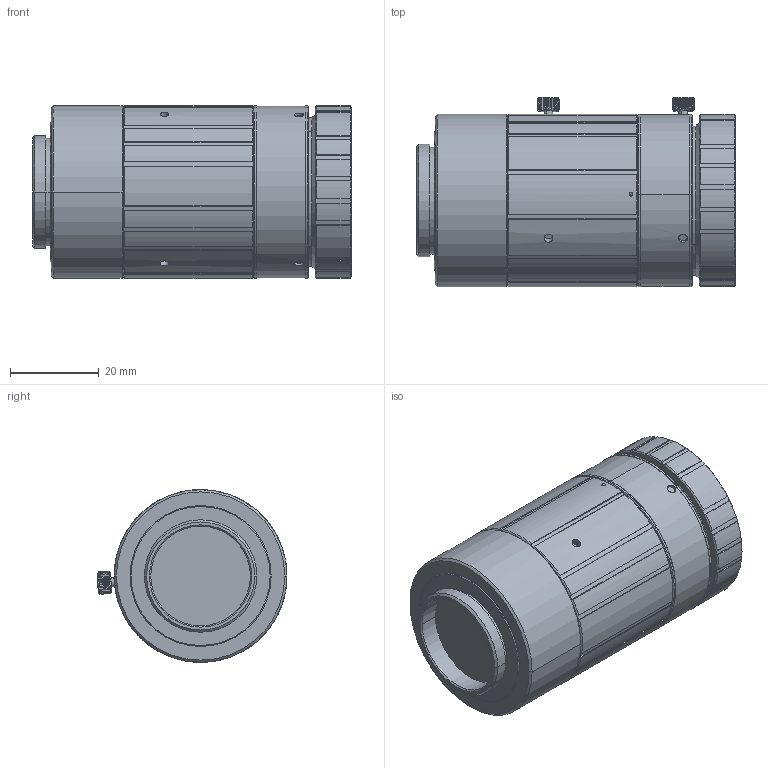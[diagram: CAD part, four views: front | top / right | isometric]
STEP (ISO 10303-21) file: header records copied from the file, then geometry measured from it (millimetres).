
FILE_DESCRIPTION(('CoCreate Modeling STEP Export'),'2;1');
FILE_NAME('CF35ZA-1S_outline.stp','2019-02-19T18:23:41',(''),(''),'CoCreate Modeling STEP processor for AP214 (Solid Model)','CoCreate Modeling 17.0B 09-Oct-2010 (C) Parametric Technology GmbH','');
FILE_SCHEMA(('AUTOMOTIVE_DESIGN { 1 0 10303 214 1 1 1 1 }'));
Length unit declared in the file: millimetre
Products named in the file (2): CF35ZA-1S_outline
Assembly tree (1 placements, depth 2):
  CF35ZA-1S_outline
    CF35ZA-1S_outline
Bounding box: 72 x 42.88 x 39 mm (x, y, z)
Volume: 72799.5 mm3; surface area: 14340.9 mm2
Topology: 1 solids, 1 shells, 393 faces, 1076 edges, 706 vertices
Faces by surface type: plane 221, cylinder 124, cone 44, torus 2, revolution 2
Entity records: 14690 total; most frequent: CARTESIAN_POINT 4784, ORIENTED_EDGE 2144, DIRECTION 1762, EDGE_CURVE 1072, VERTEX_POINT 706, AXIS2_PLACEMENT_3D 626, VECTOR 508, LINE 508
